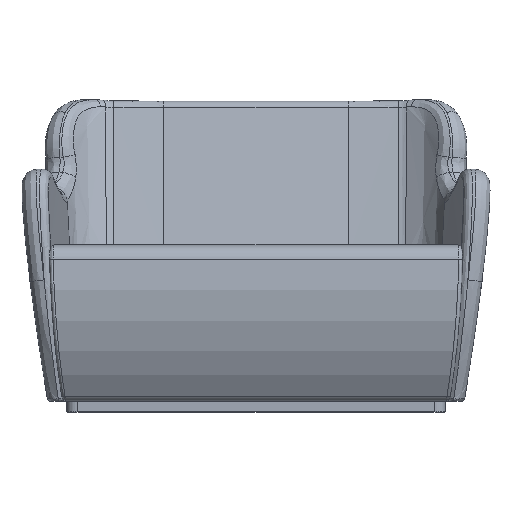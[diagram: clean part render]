
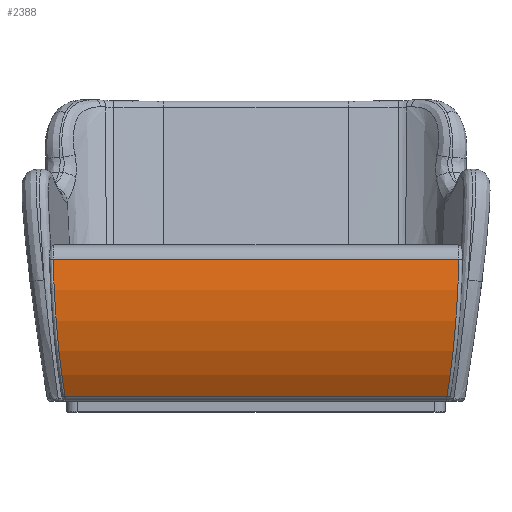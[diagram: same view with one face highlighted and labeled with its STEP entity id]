
A CAD part, top view. The second image highlights one B-rep face of the part: STEP entity #2388.
In plain terms, the highlighted cylindrical face has radius 525.307 mm (diameter 1050.61 mm), a partial arc.
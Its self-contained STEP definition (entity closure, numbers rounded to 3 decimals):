
#123 = CYLINDRICAL_SURFACE ( 'NONE', #18316, 525.307 ) ;
#254 = CARTESIAN_POINT ( 'NONE',  ( -435.622, -13.27, 5.495 ) ) ;
#663 = ORIENTED_EDGE ( 'NONE', *, *, #23163, .T. ) ;
#874 = VERTEX_POINT ( 'NONE', #17446 ) ;
#994 = EDGE_LOOP ( 'NONE', ( #4526, #10539, #663, #10176 ) ) ;
#1022 = CARTESIAN_POINT ( 'NONE',  ( -279.804, -290.994, 451.703 ) ) ;
#1280 = CARTESIAN_POINT ( 'NONE',  ( -277.465, -305.043, 442.32 ) ) ;
#1367 = CARTESIAN_POINT ( 'NONE',  ( 830.39, 47.647, 527.53 ) ) ;
#1406 = CARTESIAN_POINT ( 'NONE',  ( -293.865, -184.837, 502.277 ) ) ;
#1539 = CARTESIAN_POINT ( 'NONE',  ( -297.181, -152.859, 512.193 ) ) ;
#2258 = FACE_OUTER_BOUND ( 'NONE', #994, .T. ) ;
#2388 = ADVANCED_FACE ( 'NONE', ( #2258 ), #123, .T. ) ;
#2687 = LINE ( 'NONE', #6327, #16124 ) ;
#3105 = CARTESIAN_POINT ( 'NONE',  ( 822.383, -93.006, 524.719 ) ) ;
#3236 = CARTESIAN_POINT ( 'NONE',  ( 823.8, -74.1, 527.285 ) ) ;
#3493 = CARTESIAN_POINT ( 'NONE',  ( 806.265, -246.6, 476.157 ) ) ;
#4526 = ORIENTED_EDGE ( 'NONE', *, *, #12531, .T. ) ;
#4892 = CARTESIAN_POINT ( 'NONE',  ( -303.8, -74.1, 527.285 ) ) ;
#5239 = CARTESIAN_POINT ( 'NONE',  ( 805.488, -252.248, 473.3 ) ) ;
#5279 = CARTESIAN_POINT ( 'NONE',  ( -282.038, -276.516, 460.396 ) ) ;
#5368 = CARTESIAN_POINT ( 'NONE',  ( 822.867, -86.703, 525.648 ) ) ;
#5505 = CARTESIAN_POINT ( 'NONE',  ( 812.093, -200.563, 496.565 ) ) ;
#6165 = DIRECTION ( 'NONE',  ( -1., 0., 0. ) ) ;
#6327 = CARTESIAN_POINT ( 'NONE',  ( -435.622, -305.043, 442.32 ) ) ;
#6412 = DIRECTION ( 'NONE',  ( 0., 0., -1. ) ) ;
#6518 = CARTESIAN_POINT ( 'NONE',  ( -310.957, 64.427, 525.304 ) ) ;
#6584 = DIRECTION ( 'NONE',  ( 1., 0., 0. ) ) ;
#6767 = CARTESIAN_POINT ( 'NONE',  ( -310.39, 47.647, 527.53 ) ) ;
#6899 = CARTESIAN_POINT ( 'NONE',  ( -308.204, -2.711, 530.964 ) ) ;
#7121 = CARTESIAN_POINT ( 'NONE',  ( 805.227, -254.126, 472.335 ) ) ;
#7160 = CARTESIAN_POINT ( 'NONE',  ( -286.775, -242.818, 478.013 ) ) ;
#7380 = CARTESIAN_POINT ( 'NONE',  ( 821.559, -103.501, 523.064 ) ) ;
#7635 = CARTESIAN_POINT ( 'NONE',  ( 799.804, -290.994, 451.703 ) ) ;
#7687 = CARTESIAN_POINT ( 'NONE',  ( -298.725, -136.608, 516.396 ) ) ;
#7832 = VERTEX_POINT ( 'NONE', #20814 ) ;
#8157 = CARTESIAN_POINT ( 'NONE',  ( -435.622, 81.202, 522.237 ) ) ;
#9385 = CARTESIAN_POINT ( 'NONE',  ( 831.404, 81.202, 522.237 ) ) ;
#9426 = CARTESIAN_POINT ( 'NONE',  ( -302.867, -86.703, 525.648 ) ) ;
#9555 = CARTESIAN_POINT ( 'NONE',  ( -284.701, -257.875, 470.382 ) ) ;
#9643 = CARTESIAN_POINT ( 'NONE',  ( 820.872, -111.828, 521.542 ) ) ;
#9691 = CARTESIAN_POINT ( 'NONE',  ( -302.383, -93.006, 524.719 ) ) ;
#10022 = CARTESIAN_POINT ( 'NONE',  ( 831.404, 81.202, 522.237 ) ) ;
#10176 = ORIENTED_EDGE ( 'NONE', *, *, #19219, .T. ) ;
#10539 = ORIENTED_EDGE ( 'NONE', *, *, #11519, .F. ) ;
#11268 = CARTESIAN_POINT ( 'NONE',  ( 829.013, 14.078, 530.36 ) ) ;
#11399 = CARTESIAN_POINT ( 'NONE',  ( 804.701, -257.875, 470.382 ) ) ;
#11519 = EDGE_CURVE ( 'NONE', #22030, #7832, #19734, .T. ) ;
#11522 = CARTESIAN_POINT ( 'NONE',  ( 825.283, -53.097, 529.563 ) ) ;
#11785 = CARTESIAN_POINT ( 'NONE',  ( 818.725, -136.608, 516.396 ) ) ;
#12531 = EDGE_CURVE ( 'NONE', #874, #7832, #2687, .T. ) ;
#13305 = CARTESIAN_POINT ( 'NONE',  ( -292.093, -200.563, 496.565 ) ) ;
#13566 = CARTESIAN_POINT ( 'NONE',  ( -285.227, -254.126, 472.335 ) ) ;
#15044 = CARTESIAN_POINT ( 'NONE',  ( -306.339, -36.299, 530.566 ) ) ;
#15174 = CARTESIAN_POINT ( 'NONE',  ( -303.026, -84.602, 525.941 ) ) ;
#15266 = CARTESIAN_POINT ( 'NONE',  ( 808.283, -231.421, 483.437 ) ) ;
#15436 = CARTESIAN_POINT ( 'NONE',  ( -284.436, -259.745, 469.393 ) ) ;
#15662 = CARTESIAN_POINT ( 'NONE',  ( 822.546, -90.904, 525.038 ) ) ;
#15794 = CARTESIAN_POINT ( 'NONE',  ( 826.339, -36.299, 530.566 ) ) ;
#15838 = CARTESIAN_POINT ( 'NONE',  ( -300.872, -111.828, 521.542 ) ) ;
#16124 = VECTOR ( 'NONE', #6584, 1000. ) ;
#16326 = VERTEX_POINT ( 'NONE', #24401 ) ;
#16435 = DIRECTION ( 'NONE',  ( 1., 0., 0. ) ) ;
#16796 = CARTESIAN_POINT ( 'NONE',  ( -311.404, 81.202, 522.237 ) ) ;
#17446 = CARTESIAN_POINT ( 'NONE',  ( -277.465, -305.043, 442.32 ) ) ;
#17536 = CARTESIAN_POINT ( 'NONE',  ( 830.957, 64.427, 525.304 ) ) ;
#17666 = CARTESIAN_POINT ( 'NONE',  ( 813.865, -184.837, 502.277 ) ) ;
#17797 = CARTESIAN_POINT ( 'NONE',  ( 806.775, -242.818, 478.013 ) ) ;
#18316 = AXIS2_PLACEMENT_3D ( 'NONE', #254, #16435, #6412 ) ;
#19219 = EDGE_CURVE ( 'NONE', #16326, #874, #19774, .T. ) ;
#19325 = CARTESIAN_POINT ( 'NONE',  ( -302.546, -90.904, 525.038 ) ) ;
#19415 = CARTESIAN_POINT ( 'NONE',  ( 802.038, -276.516, 460.396 ) ) ;
#19547 = CARTESIAN_POINT ( 'NONE',  ( 797.465, -305.043, 442.32 ) ) ;
#19590 = CARTESIAN_POINT ( 'NONE',  ( -285.488, -252.248, 473.3 ) ) ;
#19675 = CARTESIAN_POINT ( 'NONE',  ( 804.436, -259.745, 469.393 ) ) ;
#19734 = B_SPLINE_CURVE_WITH_KNOTS ( 'NONE', 3,
 ( #9385, #17536, #1367, #11268, #21545, #15794, #11522, #3236, #23801, #25675, #5368, #15662, #3105, #7380, #9643, #11785, #19810, #17666, #5505, #25416, #15266, #17797, #3493, #5239, #7121, #11399, #19675, #19415, #7635, #19547 ),
 .UNSPECIFIED., .F., .F.,
 ( 4, 2, 2, 2, 2, 2, 2, 2, 2, 2, 2, 2, 2, 2, 4 ),
 ( 0., 0.05, 0.101, 0.151, 0.164, 0.17, 0.177, 0.202, 0.252, 0.303, 0.328, 0.341, 0.347, 0.353, 0.404 ),
 .UNSPECIFIED. ) ;
#19774 = B_SPLINE_CURVE_WITH_KNOTS ( 'NONE', 3,
 ( #16796, #6518, #6767, #25200, #6899, #15044, #23195, #4892, #25332, #15174, #9426, #19325, #9691, #19855, #15838, #7687, #1539, #1406, #13305, #21329, #23849, #7160, #23457, #19590, #13566, #9555, #15436, #5279, #1022, #1280 ),
 .UNSPECIFIED., .F., .F.,
 ( 4, 2, 2, 2, 2, 2, 2, 2, 2, 2, 2, 2, 2, 2, 4 ),
 ( 0., 0.05, 0.101, 0.151, 0.164, 0.17, 0.177, 0.202, 0.252, 0.303, 0.328, 0.341, 0.347, 0.353, 0.404 ),
 .UNSPECIFIED. ) ;
#19810 = CARTESIAN_POINT ( 'NONE',  ( 817.181, -152.859, 512.193 ) ) ;
#19855 = CARTESIAN_POINT ( 'NONE',  ( -301.559, -103.501, 523.064 ) ) ;
#20328 = LINE ( 'NONE', #8157, #21603 ) ;
#20814 = CARTESIAN_POINT ( 'NONE',  ( 797.465, -305.043, 442.32 ) ) ;
#21329 = CARTESIAN_POINT ( 'NONE',  ( -289.258, -223.756, 486.861 ) ) ;
#21545 = CARTESIAN_POINT ( 'NONE',  ( 828.204, -2.711, 530.964 ) ) ;
#21603 = VECTOR ( 'NONE', #6165, 1000. ) ;
#22030 = VERTEX_POINT ( 'NONE', #10022 ) ;
#23163 = EDGE_CURVE ( 'NONE', #22030, #16326, #20328, .T. ) ;
#23195 = CARTESIAN_POINT ( 'NONE',  ( -305.283, -53.097, 529.563 ) ) ;
#23457 = CARTESIAN_POINT ( 'NONE',  ( -286.265, -246.6, 476.157 ) ) ;
#23801 = CARTESIAN_POINT ( 'NONE',  ( 823.495, -78.301, 526.778 ) ) ;
#23849 = CARTESIAN_POINT ( 'NONE',  ( -288.283, -231.421, 483.437 ) ) ;
#24401 = CARTESIAN_POINT ( 'NONE',  ( -311.404, 81.202, 522.237 ) ) ;
#25200 = CARTESIAN_POINT ( 'NONE',  ( -309.013, 14.078, 530.36 ) ) ;
#25332 = CARTESIAN_POINT ( 'NONE',  ( -303.495, -78.301, 526.778 ) ) ;
#25416 = CARTESIAN_POINT ( 'NONE',  ( 809.258, -223.756, 486.861 ) ) ;
#25675 = CARTESIAN_POINT ( 'NONE',  ( 823.026, -84.602, 525.941 ) ) ;
